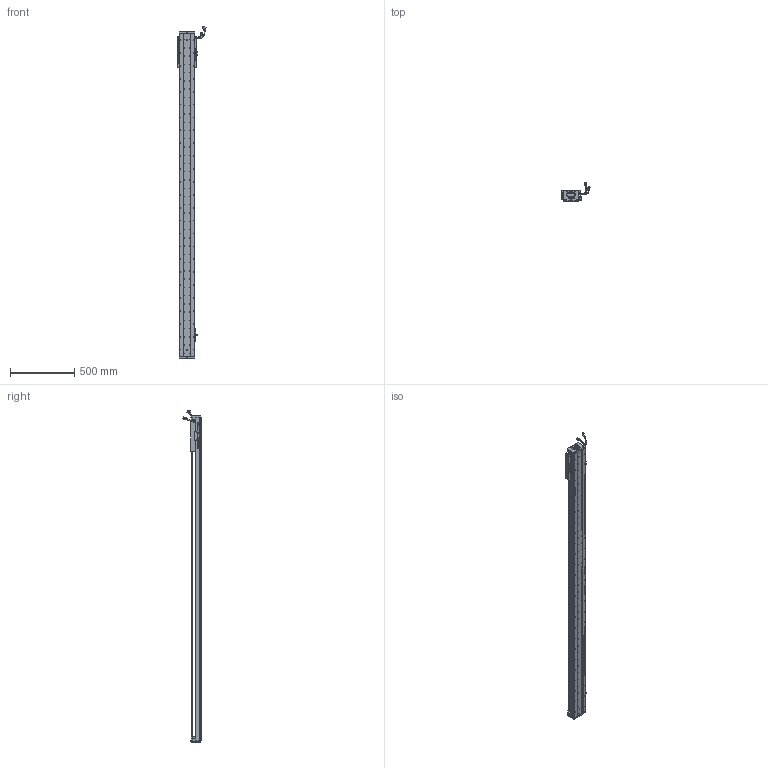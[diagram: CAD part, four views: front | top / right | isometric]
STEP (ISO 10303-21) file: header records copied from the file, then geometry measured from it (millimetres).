
FILE_DESCRIPTION (( 'STEP AP203' ), '1' );
FILE_NAME ('Z3-RY120D-1-L500-B-K.SLDASM_2200.step', '2021-05-17T05:49:33', ( '盈信电脑' ), ( '东莞市道滘镇水果街19号' ), 'SwSTEP 2.0', 'SolidWorks 2016', '' );
FILE_SCHEMA (( 'CONFIG_CONTROL_DESIGN' ));
Length unit declared in the file: millimetre
Products named in the file (37): LABEL-Part-1; RY100FB-遵嫖萇覜茼え; SCREW-M1.6-1; SCREW-M1.6; SCREW-M1.6-2; SCALE; SCREW-M1.6-3; SCALE-Part-1; 140蚥薯蝶輸; COVER-Part-1; Z3-RY120-L500詩湍100mm遵_2200; SEAL; 榋妏寠巭燃_暯_M2_2; 080黍杅芛假蚾釱21遴; HARNESS; HOLDER0; Z3-RY120铝滑块（21款）; 140雄赽晤鎢ん堤盄; Z-120詩湍傷裔啣; PBU_SHEET; LABEL; SHIELDPLATE; SEAL-Part-1; Z-RY120D詩湍狟揤裔; 120-Z-臏賑輸盄裔(21遴); SCALE-Part-2; Z3-RY120-500-倰第菁釱_2200; HARNESS-Part-2; 672嫖萇羲壽假蚾釱; SCREW-M1.7; HARNESS-Part-1; Z-RY120D詩湍奻揤裔; PSLH080_PSLF2; Z3-RY120D-1-L500-B-K.SLDASM_2200; 覜茼ん672; SCREW-M1.7-1; COVER
Assembly tree (43 placements, depth 4):
  Z3-RY120D-1-L500-B-K.SLDASM_2200
    Z3-RY120-500-倰第菁釱_2200
    覜茼ん672  x3
    672嫖萇羲壽假蚾釱  x2
    Z3-RY120铝滑块（21款）
    PSLH080_PSLF2
      SCALE
        SCALE-Part-1
        SCALE-Part-2
      HARNESS
        HARNESS-Part-1
        HARNESS-Part-2
      LABEL
        LABEL-Part-1
      COVER
        COVER-Part-1
      SEAL
        SEAL-Part-1
      榋妏寠巭燃_暯_M2_2
      SHIELDPLATE
      SCREW-M1.7
      SCREW-M1.7-1
      PBU_SHEET
      SCREW-M1.6
      SCREW-M1.6-1
      SCREW-M1.6-2
      SCREW-M1.6-3
      HOLDER0
    080黍杅芛假蚾釱21遴
    120-Z-臏賑輸盄裔(21遴)
    140雄赽晤鎢ん堤盄
    140蚥薯蝶輸  x2
    RY100FB-遵嫖萇覜茼え
    Z-120詩湍傷裔啣  x2
    Z-RY120D詩湍奻揤裔  x2
    Z-RY120D詩湍狟揤裔  x2
    Z3-RY120-L500詩湍100mm遵_2200
Bounding box: 222.88 x 140.94 x 2573.99 mm (x, y, z)
Volume: 6084367.1 mm3; surface area: 2121259.7 mm2
Topology: 38 solids, 38 shells, 3637 faces, 10329 edges, 6516 vertices
Faces by surface type: cylinder 1897, plane 1240, cone 378, torus 69, bspline 53
Entity records: 121386 total; most frequent: CARTESIAN_POINT 36919, ORIENTED_EDGE 17426, DIRECTION 16039, EDGE_CURVE 8713, AXIS2_PLACEMENT_3D 5930, VERTEX_POINT 5636, LINE 4179, VECTOR 4179
